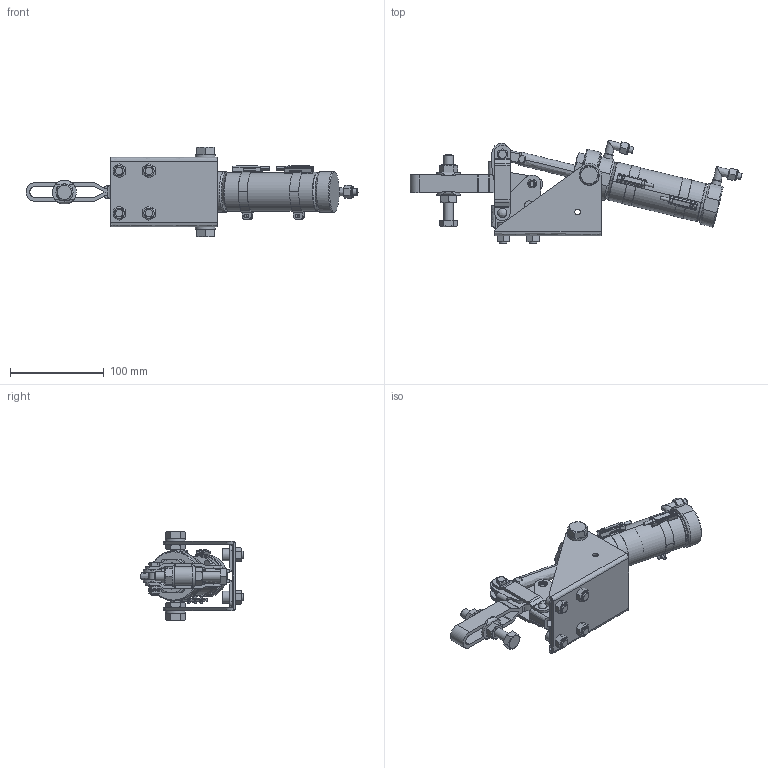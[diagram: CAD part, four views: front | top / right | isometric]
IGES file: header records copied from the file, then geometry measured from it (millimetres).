
Global section: file name: No.AC650S; native system: Autodesk Inventor 2020; preprocessor: unknown; author: 高橋善宗,,11,0,1; organization: 5H20160225.084629; date: 20211109.114707; units: millimetre
Bounding box: 354.5 x 110.72 x 96 mm (x, y, z)
Volume: 332061.8 mm3; surface area: 184229.1 mm2
Topology: 44 solids, 44 shells, 874 faces, 2210 edges, 1466 vertices
Faces by surface type: bspline 874
